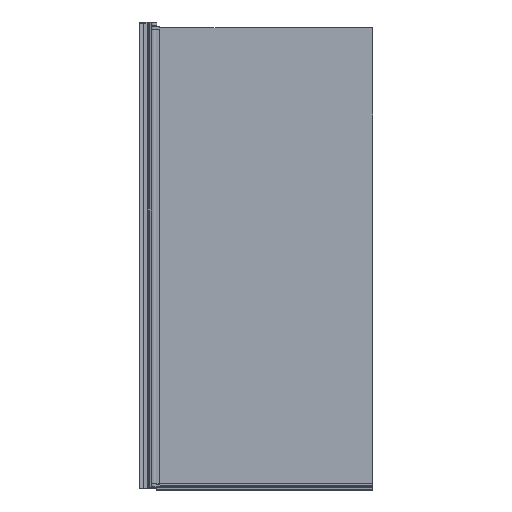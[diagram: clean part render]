
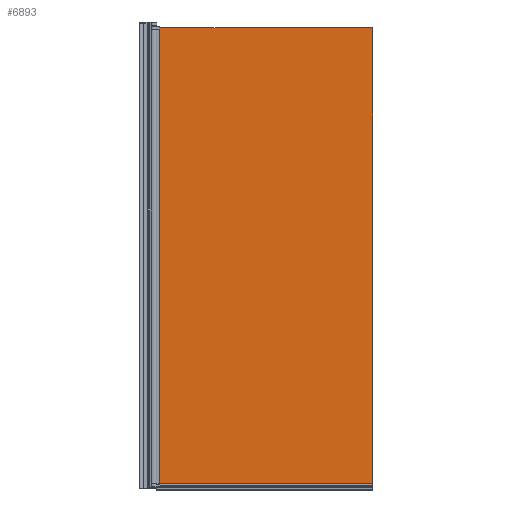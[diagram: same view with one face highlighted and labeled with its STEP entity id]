
A CAD part, top view. The second image highlights one B-rep face of the part: STEP entity #6893.
In plain terms, the highlighted planar face has unit normal (0, 0, 1).
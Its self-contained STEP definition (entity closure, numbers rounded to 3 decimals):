
#616=FACE_OUTER_BOUND('',#1027,.T.);
#1027=EDGE_LOOP('',(#5902,#5903,#5904,#5905));
#1956=LINE('',#13820,#2513);
#1958=LINE('',#13824,#2515);
#1960=LINE('',#13828,#2517);
#1962=LINE('',#13831,#2519);
#2513=VECTOR('',#9334,1373.);
#2515=VECTOR('',#9338,650.);
#2517=VECTOR('',#9342,1373.);
#2519=VECTOR('',#9346,650.);
#3165=VERTEX_POINT('',#13817);
#3166=VERTEX_POINT('',#13819);
#3167=VERTEX_POINT('',#13823);
#3168=VERTEX_POINT('',#13827);
#4103=EDGE_CURVE('',#3166,#3165,#1956,.T.);
#4105=EDGE_CURVE('',#3167,#3166,#1958,.T.);
#4107=EDGE_CURVE('',#3168,#3167,#1960,.T.);
#4109=EDGE_CURVE('',#3165,#3168,#1962,.T.);
#5902=ORIENTED_EDGE('',*,*,#4103,.T.);
#5903=ORIENTED_EDGE('',*,*,#4109,.T.);
#5904=ORIENTED_EDGE('',*,*,#4107,.T.);
#5905=ORIENTED_EDGE('',*,*,#4105,.T.);
#6537=PLANE('',#7597);
#6893=ADVANCED_FACE('',(#616),#6537,.T.);
#7597=AXIS2_PLACEMENT_3D('',#13832,#9347,#9348);
#9334=DIRECTION('',(0.,-1.,0.));
#9338=DIRECTION('',(-1.,0.,0.));
#9342=DIRECTION('',(0.,1.,0.));
#9346=DIRECTION('',(1.,0.,0.));
#9347=DIRECTION('center_axis',(0.,0.,1.));
#9348=DIRECTION('ref_axis',(1.,0.,0.));
#13817=CARTESIAN_POINT('',(46.913,-17.491,695.675));
#13819=CARTESIAN_POINT('',(46.913,1355.509,695.675));
#13820=CARTESIAN_POINT('',(46.913,1355.509,695.675));
#13823=CARTESIAN_POINT('',(696.913,1355.509,695.675));
#13824=CARTESIAN_POINT('',(696.913,1355.509,695.675));
#13827=CARTESIAN_POINT('',(696.913,-17.491,695.675));
#13828=CARTESIAN_POINT('',(696.913,-17.491,695.675));
#13831=CARTESIAN_POINT('',(46.913,-17.491,695.675));
#13832=CARTESIAN_POINT('Origin',(371.913,669.009,695.675));
